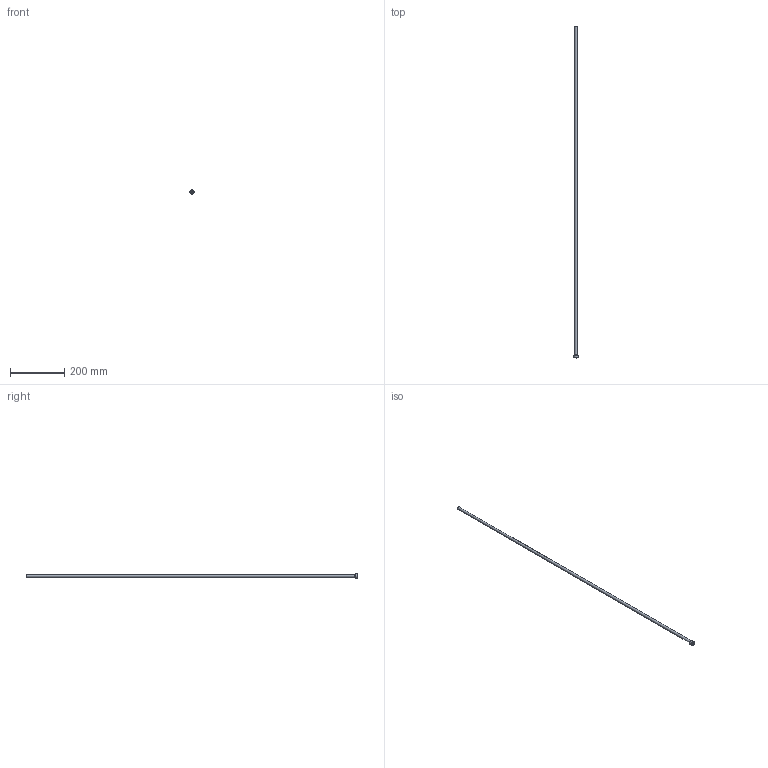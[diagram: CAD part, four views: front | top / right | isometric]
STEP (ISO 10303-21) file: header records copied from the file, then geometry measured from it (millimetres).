
FILE_DESCRIPTION(/* description */ (''),/* implementation_level */ '2;1');
FILE_NAME(/* name */ 'C:/Users/drich/Desktop/PT38-375-48 v1.step',/* time_stamp */ '2019-12-27T15:56:16-06:00',/* author */ (''),/* organization */ (''),/* preprocessor_version */ 'ST-DEVELOPER v18',/* originating_system */ 'Autodesk Translation Framework v8.12.0.6',/* authorisation */ '');
FILE_SCHEMA (('AUTOMOTIVE_DESIGN { 1 0 10303 214 3 1 1 }'));
Length unit declared in the file: inch
Products named in the file (1): PT38-375-48
Bounding box: 16.54 x 1219.2 x 16.54 mm (x, y, z)
Volume: 16582.1 mm3; surface area: 69978.4 mm2
Topology: 1 solids, 1 shells, 30 faces, 71 edges, 45 vertices
Faces by surface type: plane 22, cylinder 4, torus 2, cone 2
Full cylindrical faces by diameter (mm): 8.636 x1, 9.5 x1, 11.938 x1, 16.537 x1
Entity records: 913 total; most frequent: DIRECTION 168, CARTESIAN_POINT 147, ORIENTED_EDGE 142, EDGE_CURVE 71, AXIS2_PLACEMENT_3D 66, VERTEX_POINT 45, LINE 36, VECTOR 36
